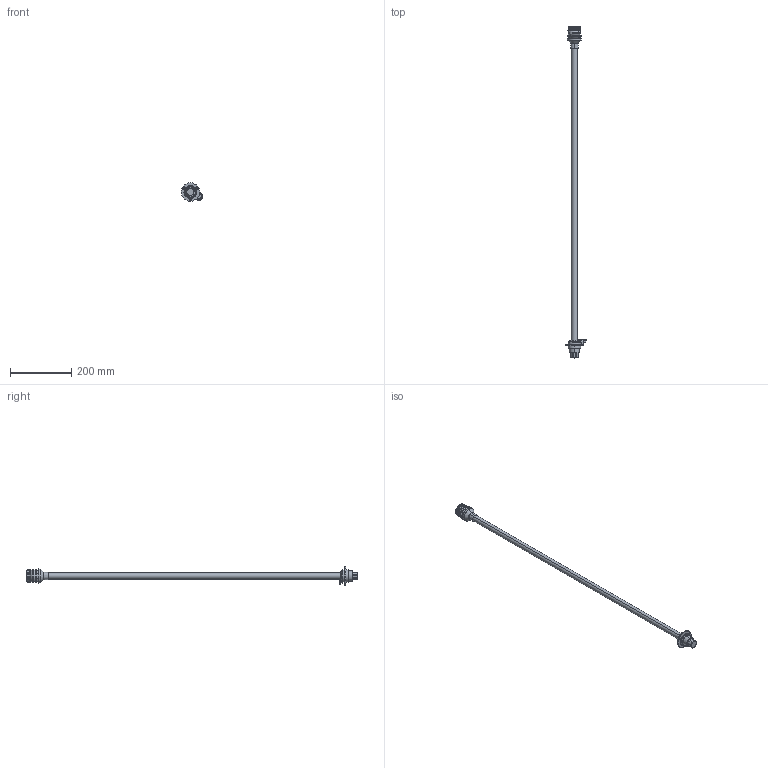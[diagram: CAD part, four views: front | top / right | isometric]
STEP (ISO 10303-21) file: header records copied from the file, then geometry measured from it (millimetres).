
FILE_DESCRIPTION (( 'STEP AP203' ), '1' );
FILE_NAME ('1114510_.STEP', '2019-10-15T15:21:03', ( '' ), ( '' ), 'SwSTEP 2.0', 'SolidWorks 2014', '' );
FILE_SCHEMA (( 'CONFIG_CONTROL_DESIGN' ));
Length unit declared in the file: millimetre
Products named in the file (5): 1114510_; 11.145.10_Faro; OTUIN-0003; 11.145.10_incasso; 11.145.10A
Assembly tree (4 placements, depth 2):
  1114510_
    11.145.10_Faro
    OTUIN-0003
    11.145.10_incasso
    11.145.10A
Bounding box: 70.33 x 1082.2 x 60 mm (x, y, z)
Volume: 436862.6 mm3; surface area: 98411.3 mm2
Topology: 5 solids, 5 shells, 207 faces, 469 edges, 283 vertices
Faces by surface type: cylinder 69, plane 52, cone 45, torus 39, sphere 2
Entity records: 6370 total; most frequent: DIRECTION 1149, CARTESIAN_POINT 1002, ORIENTED_EDGE 938, AXIS2_PLACEMENT_3D 472, EDGE_CURVE 469, VERTEX_POINT 283, CIRCLE 258, EDGE_LOOP 226
